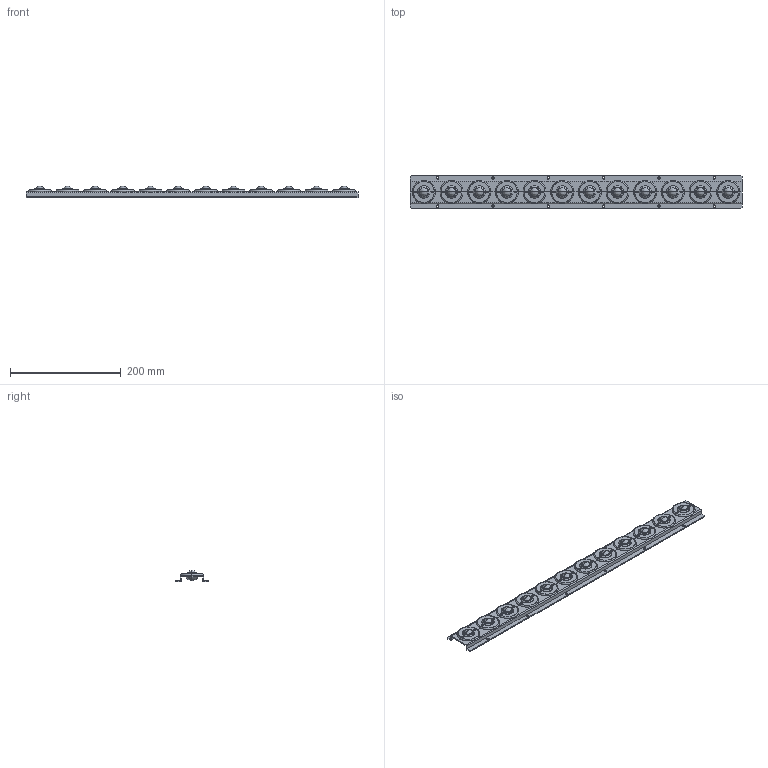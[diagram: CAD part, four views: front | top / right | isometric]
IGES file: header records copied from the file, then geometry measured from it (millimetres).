
Global section: file name: E:\UnigraphicsGraphicData\MISUMI_PRESS-PARTS\IGES\3d_goro-12_03804_r00.igs; native system: NX V5.0; preprocessor: UGS NX IGES V5.0; author: MISUMI; date: 20110105.160719; units: millimetre
Bounding box: 600 x 59 x 21 mm (x, y, z)
Surface area: 104930.2 mm2 (no closed solid volume)
Topology: 0 solids, 0 shells, 312 faces, 2492 edges, 2444 vertices
Faces by surface type: bspline 312
